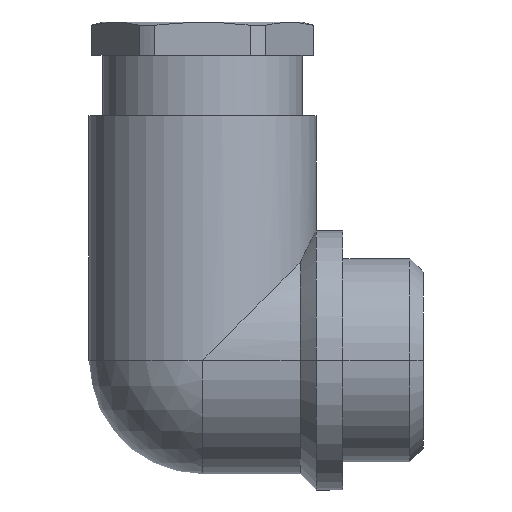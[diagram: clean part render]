
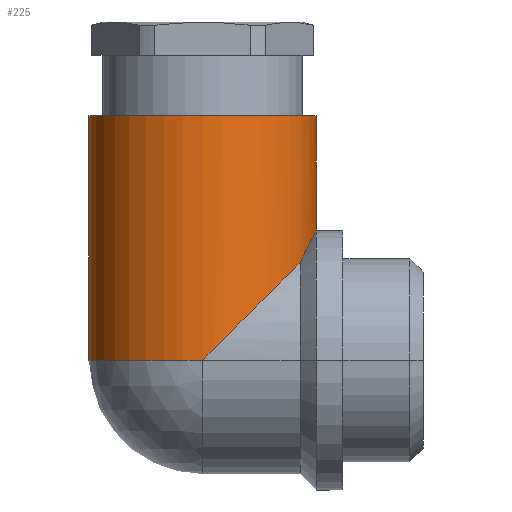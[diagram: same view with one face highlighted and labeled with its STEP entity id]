
A CAD part, front view. The second image highlights one B-rep face of the part: STEP entity #225.
In plain terms, the highlighted cylindrical face has radius 8.5 mm (diameter 17 mm), a partial arc.
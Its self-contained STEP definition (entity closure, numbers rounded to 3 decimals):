
#89 = EDGE_LOOP ( 'NONE', ( #226, #91, #92, #93, #94, #95 ) ) ;
#91 = ORIENTED_EDGE ( 'NONE', *, *, #185, .F. ) ;
#92 = ORIENTED_EDGE ( 'NONE', *, *, #2569, .T. ) ;
#93 = ORIENTED_EDGE ( 'NONE', *, *, #109, .T. ) ;
#94 = ORIENTED_EDGE ( 'NONE', *, *, #2755, .F. ) ;
#95 = ORIENTED_EDGE ( 'NONE', *, *, #2787, .F. ) ;
#109 = EDGE_CURVE ( 'NONE', #2703, #2799, #860, .T. ) ;
#185 = EDGE_CURVE ( 'NONE', #2676, #2675, #958, .T. ) ;
#225 = ADVANCED_FACE ( 'NONE', ( #1044 ), #1021, .T. ) ;
#226 = ORIENTED_EDGE ( 'NONE', *, *, #2584, .F. ) ;
#856 = DIRECTION ( 'NONE',  ( 1., 0., 0. ) ) ;
#857 = DIRECTION ( 'NONE',  ( 0., 0., 1. ) ) ;
#858 = CARTESIAN_POINT ( 'NONE',  ( -16.5, 0., 0. ) ) ;
#859 = AXIS2_PLACEMENT_3D ( 'NONE', #858, #857, #856 ) ;
#860 = CIRCLE ( 'NONE', #859, 8.5 ) ;
#958 = CIRCLE ( 'NONE', #961, 8.5 ) ;
#961 = AXIS2_PLACEMENT_3D ( 'NONE', #983, #982, #998 ) ;
#982 = DIRECTION ( 'NONE',  ( 0., 0., 1. ) ) ;
#983 = CARTESIAN_POINT ( 'NONE',  ( -16.5, 0., 18.3 ) ) ;
#998 = DIRECTION ( 'NONE',  ( 1., 0., 0. ) ) ;
#1015 = CARTESIAN_POINT ( 'NONE',  ( -16.5, 0., 18.3 ) ) ;
#1019 = DIRECTION ( 'NONE',  ( -1., 0., 0. ) ) ;
#1020 = AXIS2_PLACEMENT_3D ( 'NONE', #1015, #1072, #1019 ) ;
#1021 = CYLINDRICAL_SURFACE ( 'NONE', #1020, 8.5 ) ;
#1044 = FACE_OUTER_BOUND ( 'NONE', #89, .T. ) ;
#1072 = DIRECTION ( 'NONE',  ( 0., 0., -1. ) ) ;
#1745 = DIRECTION ( 'NONE',  ( 0., 0., -1. ) ) ;
#1746 = VECTOR ( 'NONE', #1745, 1000. ) ;
#1747 = CARTESIAN_POINT ( 'NONE',  ( -25., 0., 18.3 ) ) ;
#1748 = LINE ( 'NONE', #1747, #1746 ) ;
#1770 = DIRECTION ( 'NONE',  ( 0., 0., -1. ) ) ;
#1771 = VECTOR ( 'NONE', #1770, 1000. ) ;
#1772 = CARTESIAN_POINT ( 'NONE',  ( -8., 0., 18.3 ) ) ;
#1773 = LINE ( 'NONE', #1772, #1771 ) ;
#2007 = CARTESIAN_POINT ( 'NONE',  ( -8., 0., 18.3 ) ) ;
#2037 = CARTESIAN_POINT ( 'NONE',  ( -25., 0., 18.3 ) ) ;
#2045 = CARTESIAN_POINT ( 'NONE',  ( -8., 0., 9.7 ) ) ;
#2069 = CARTESIAN_POINT ( 'NONE',  ( -25., 0., 0. ) ) ;
#2092 = CARTESIAN_POINT ( 'NONE',  ( -9.2, -4.354, 7.3 ) ) ;
#2093 = CARTESIAN_POINT ( 'NONE',  ( -9.048, -4.099, 7.629 ) ) ;
#2094 = CARTESIAN_POINT ( 'NONE',  ( -8.9, -3.821, 7.937 ) ) ;
#2117 = CARTESIAN_POINT ( 'NONE',  ( -8.62, -3.205, 8.504 ) ) ;
#2118 = CARTESIAN_POINT ( 'NONE',  ( -8.488, -2.863, 8.766 ) ) ;
#2119 = CARTESIAN_POINT ( 'NONE',  ( -8.318, -2.313, 9.094 ) ) ;
#2120 = CARTESIAN_POINT ( 'NONE',  ( -8.267, -2.122, 9.194 ) ) ;
#2121 = CARTESIAN_POINT ( 'NONE',  ( -8.175, -1.727, 9.37 ) ) ;
#2122 = CARTESIAN_POINT ( 'NONE',  ( -8.134, -1.52, 9.447 ) ) ;
#2123 = CARTESIAN_POINT ( 'NONE',  ( -8.068, -1.097, 9.571 ) ) ;
#2162 = CARTESIAN_POINT ( 'NONE',  ( -9.2, -4.354, 7.3 ) ) ;
#2163 = CARTESIAN_POINT ( 'NONE',  ( -16.5, -8.5, 0. ) ) ;
#2169 = B_SPLINE_CURVE_WITH_KNOTS ( 'NONE', 3,
 ( #2174, #2173, #2172, #2171, #2123, #2122, #2121, #2120, #2119, #2118, #2117, #2094, #2093, #2092 ),
 .UNSPECIFIED., .F., .F.,
 ( 4, 2, 2, 2, 2, 2, 4 ),
 ( 0.006, 0.006, 0.007, 0.008, 0.008, 0.01, 0.011 ),
 .UNSPECIFIED. ) ;
#2171 = CARTESIAN_POINT ( 'NONE',  ( -8.043, -0.883, 9.619 ) ) ;
#2172 = CARTESIAN_POINT ( 'NONE',  ( -8.009, -0.446, 9.683 ) ) ;
#2173 = CARTESIAN_POINT ( 'NONE',  ( -8., -0.223, 9.7 ) ) ;
#2174 = CARTESIAN_POINT ( 'NONE',  ( -8., 0., 9.7 ) ) ;
#2191 =( BOUNDED_CURVE ( )  B_SPLINE_CURVE ( 3, ( #2195, #2212, #2211, #2210 ),
 .UNSPECIFIED., .F., .T. ) 
 B_SPLINE_CURVE_WITH_KNOTS ( ( 4, 4 ),
 ( 0.538, 1.571 ),
 .UNSPECIFIED. ) 
 CURVE ( )  GEOMETRIC_REPRESENTATION_ITEM ( )  RATIONAL_B_SPLINE_CURVE ( ( 1., 0.913, 0.913, 1. ) ) 
 REPRESENTATION_ITEM ( '' )  );
#2195 = CARTESIAN_POINT ( 'NONE',  ( -9.2, -4.354, 7.3 ) ) ;
#2210 = CARTESIAN_POINT ( 'NONE',  ( -16.5, -8.5, 0. ) ) ;
#2211 = CARTESIAN_POINT ( 'NONE',  ( -13.435, -8.5, 3.065 ) ) ;
#2212 = CARTESIAN_POINT ( 'NONE',  ( -10.77, -6.986, 5.73 ) ) ;
#2569 = EDGE_CURVE ( 'NONE', #2676, #2703, #1748, .T. ) ;
#2584 = EDGE_CURVE ( 'NONE', #2675, #2666, #1773, .T. ) ;
#2666 = VERTEX_POINT ( 'NONE', #2045 ) ;
#2675 = VERTEX_POINT ( 'NONE', #2007 ) ;
#2676 = VERTEX_POINT ( 'NONE', #2037 ) ;
#2703 = VERTEX_POINT ( 'NONE', #2069 ) ;
#2755 = EDGE_CURVE ( 'NONE', #2800, #2799, #2191, .T. ) ;
#2787 = EDGE_CURVE ( 'NONE', #2666, #2800, #2169, .T. ) ;
#2799 = VERTEX_POINT ( 'NONE', #2163 ) ;
#2800 = VERTEX_POINT ( 'NONE', #2162 ) ;
